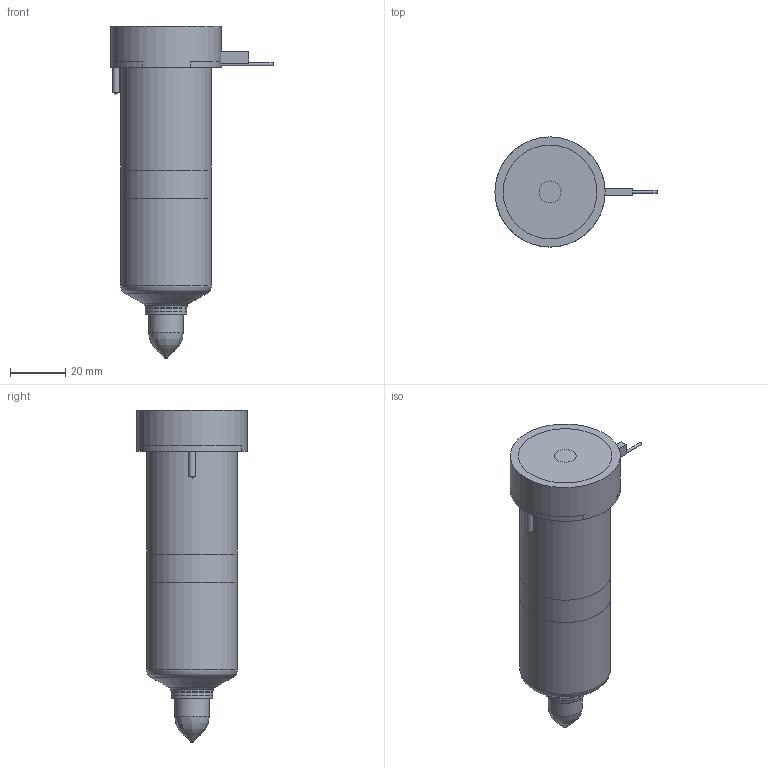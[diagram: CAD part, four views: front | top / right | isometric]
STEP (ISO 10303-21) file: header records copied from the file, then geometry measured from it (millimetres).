
FILE_DESCRIPTION(/* description */ (''),/* implementation_level */ '2;1');
FILE_NAME(/* name */ 'BXTT-BXIT19095-10_250C_b',/* time_stamp */ '2007-01-18T10:00:09+13:00',/* author */ (''),/* organization */ (''),/* preprocessor_version */ 'ST-DEVELOPER v9',/* originating_system */ 'UGS - NX 4.0',/* authorisation */ '');
FILE_SCHEMA (('CONFIG_CONTROL_DESIGN'));
Length unit declared in the file: millimetre
Products named in the file (1): BXTT-BXIT19095-10_250C_b
Bounding box: 58.85 x 40 x 120.55 mm (x, y, z)
Volume: 172568.6 mm3; surface area: 29949.3 mm2
Topology: 6 solids, 6 shells, 82 faces, 162 edges, 102 vertices
Faces by surface type: plane 35, cylinder 25, cone 12, torus 8, bspline 2
Full cylindrical faces by diameter (mm): 1 x3, 1.2 x1, 2.5 x2, 8 x1, 9 x1, 12.5 x1, 14.61 x1, 15.01 x2, 18.3 x1, 28.6 x1, 33 x2, 40 x1
Entity records: 2043 total; most frequent: CARTESIAN_POINT 427, DIRECTION 340, ORIENTED_EDGE 236, AXIS2_PLACEMENT_3D 151, EDGE_LOOP 128, EDGE_CURVE 118, VERTEX_POINT 95, ADVANCED_FACE 82
